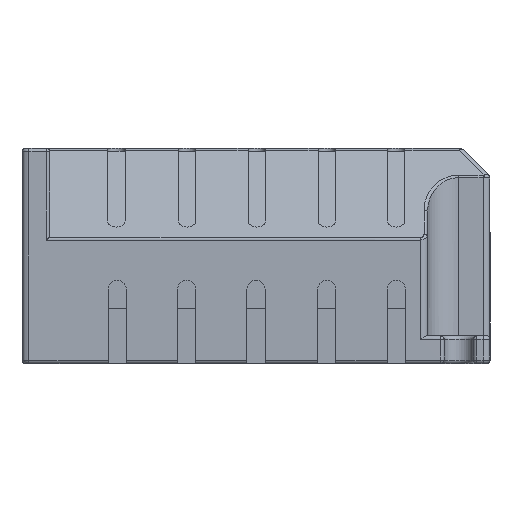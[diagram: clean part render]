
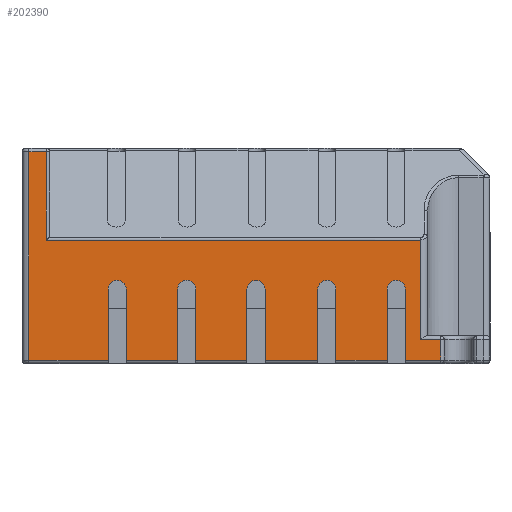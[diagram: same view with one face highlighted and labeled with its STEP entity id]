
A CAD part, left-side view. The second image highlights one B-rep face of the part: STEP entity #202390.
In plain terms, the highlighted planar face has unit normal (-1, 0, 0).
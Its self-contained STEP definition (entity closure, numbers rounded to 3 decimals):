
#198470=CARTESIAN_POINT('',(0.,7.1,0.5));
#198480=VERTEX_POINT('',#198470);
#198720=CARTESIAN_POINT('',(0.,14.8,0.5));
#198730=VERTEX_POINT('',#198720);
#198910=CARTESIAN_POINT('',(0.,12.2,0.5));
#198920=VERTEX_POINT('',#198910);
#198950=CARTESIAN_POINT('',(0.,7.1,0.5));
#198960=DIRECTION('',(0.,1.,0.));
#198970=VECTOR('',#198960,1.);
#198980=LINE('',#198950,#198970);
#198990=EDGE_CURVE('',#198480,#198920,#198980,.T.);
#199080=CARTESIAN_POINT('',(0.,66.4,0.5));
#199090=VERTEX_POINT('',#199080);
#199120=CARTESIAN_POINT('',(0.,55.,0.5));
#199130=DIRECTION('',(0.,1.,0.));
#199140=VECTOR('',#199130,1.);
#199150=LINE('',#199120,#199140);
#199160=CARTESIAN_POINT('',(0.,55.,0.5));
#199170=VERTEX_POINT('',#199160);
#199180=EDGE_CURVE('',#199170,#199090,#199150,.T.);
#199420=CARTESIAN_POINT('',(0.,52.4,0.5));
#199430=VERTEX_POINT('',#199420);
#199460=CARTESIAN_POINT('',(0.,45.,0.5));
#199470=DIRECTION('',(0.,1.,0.));
#199480=VECTOR('',#199470,1.);
#199490=LINE('',#199460,#199480);
#199500=CARTESIAN_POINT('',(0.,45.,0.5));
#199510=VERTEX_POINT('',#199500);
#199520=EDGE_CURVE('',#199510,#199430,#199490,.T.);
#199760=CARTESIAN_POINT('',(0.,42.4,0.5));
#199770=VERTEX_POINT('',#199760);
#199800=CARTESIAN_POINT('',(0.,35.,0.5));
#199810=DIRECTION('',(0.,1.,0.));
#199820=VECTOR('',#199810,1.);
#199830=LINE('',#199800,#199820);
#199840=CARTESIAN_POINT('',(0.,35.,0.5));
#199850=VERTEX_POINT('',#199840);
#199860=EDGE_CURVE('',#199850,#199770,#199830,.T.);
#200100=CARTESIAN_POINT('',(0.,32.4,0.5));
#200110=VERTEX_POINT('',#200100);
#200140=CARTESIAN_POINT('',(0.,24.8,0.5));
#200150=DIRECTION('',(0.,1.,0.));
#200160=VECTOR('',#200150,1.);
#200170=LINE('',#200140,#200160);
#200180=CARTESIAN_POINT('',(0.,24.8,0.5));
#200190=VERTEX_POINT('',#200180);
#200200=EDGE_CURVE('',#200190,#200110,#200170,.T.);
#200440=CARTESIAN_POINT('',(0.,22.2,0.5));
#200450=VERTEX_POINT('',#200440);
#200480=CARTESIAN_POINT('',(0.,14.8,0.5));
#200490=DIRECTION('',(0.,1.,0.));
#200500=VECTOR('',#200490,1.);
#200510=LINE('',#200480,#200500);
#200520=EDGE_CURVE('',#198730,#200450,#200510,.T.);
#200570=CARTESIAN_POINT('',(0.,9.,4.));
#200580=DIRECTION('',(-1.,0.,0.));
#200590=DIRECTION('',(0.,1.,0.));
#200600=AXIS2_PLACEMENT_3D('',#200570,#200580,#200590);
#200610=PLANE('',#200600);
#200620=CARTESIAN_POINT('',(0.,10.,3.51));
#200630=DIRECTION('',(0.,-1.,0.));
#200640=VECTOR('',#200630,1.);
#200650=LINE('',#200620,#200640);
#200660=CARTESIAN_POINT('',(0.,10.,3.51));
#200670=VERTEX_POINT('',#200660);
#200680=CARTESIAN_POINT('',(0.005,7.1,3.51));
#200690=VERTEX_POINT('',#200680);
#200700=EDGE_CURVE('',#200670,#200690,#200650,.T.);
#200710=ORIENTED_EDGE('',*,*,#200700,.F.);
#200720=CARTESIAN_POINT('',(0.,7.1,3.51));
#200730=DIRECTION('',(0.,0.,-1.));
#200740=VECTOR('',#200730,1.);
#200750=LINE('',#200720,#200740);
#200760=EDGE_CURVE('',#200690,#198480,#200750,.T.);
#200770=ORIENTED_EDGE('',*,*,#200760,.F.);
#200780=ORIENTED_EDGE('',*,*,#198990,.F.);
#200790=CARTESIAN_POINT('',(0.,12.2,0.5));
#200800=DIRECTION('',(0.,0.,1.));
#200810=VECTOR('',#200800,1.);
#200820=LINE('',#200790,#200810);
#200830=CARTESIAN_POINT('',(0.,12.2,10.7));
#200840=VERTEX_POINT('',#200830);
#200850=EDGE_CURVE('',#198920,#200840,#200820,.T.);
#200860=ORIENTED_EDGE('',*,*,#200850,.F.);
#200870=CARTESIAN_POINT('',(0.,13.5,10.7));
#200880=DIRECTION('',(1.,0.,-0.));
#200890=DIRECTION('',(0.,1.,0.));
#200900=AXIS2_PLACEMENT_3D('',#200870,#200880,#200890);
#200910=CIRCLE('',#200900,1.3);
#200920=CARTESIAN_POINT('',(0.,14.8,10.7));
#200930=VERTEX_POINT('',#200920);
#200940=EDGE_CURVE('',#200930,#200840,#200910,.T.);
#200950=ORIENTED_EDGE('',*,*,#200940,.T.);
#200960=CARTESIAN_POINT('',(0.,14.8,10.7));
#200970=DIRECTION('',(0.,0.,-1.));
#200980=VECTOR('',#200970,1.);
#200990=LINE('',#200960,#200980);
#201000=EDGE_CURVE('',#200930,#198730,#200990,.T.);
#201010=ORIENTED_EDGE('',*,*,#201000,.F.);
#201020=ORIENTED_EDGE('',*,*,#200520,.F.);
#201030=CARTESIAN_POINT('',(0.,22.2,0.5));
#201040=DIRECTION('',(0.,0.,1.));
#201050=VECTOR('',#201040,1.);
#201060=LINE('',#201030,#201050);
#201070=CARTESIAN_POINT('',(0.,22.2,10.7));
#201080=VERTEX_POINT('',#201070);
#201090=EDGE_CURVE('',#200450,#201080,#201060,.T.);
#201100=ORIENTED_EDGE('',*,*,#201090,.F.);
#201110=CARTESIAN_POINT('',(0.,23.5,10.7));
#201120=DIRECTION('',(1.,0.,-0.));
#201130=DIRECTION('',(0.,1.,0.));
#201140=AXIS2_PLACEMENT_3D('',#201110,#201120,#201130);
#201150=CIRCLE('',#201140,1.3);
#201160=CARTESIAN_POINT('',(0.,24.8,10.7));
#201170=VERTEX_POINT('',#201160);
#201180=EDGE_CURVE('',#201170,#201080,#201150,.T.);
#201190=ORIENTED_EDGE('',*,*,#201180,.T.);
#201200=CARTESIAN_POINT('',(0.,24.8,10.7));
#201210=DIRECTION('',(0.,0.,-1.));
#201220=VECTOR('',#201210,1.);
#201230=LINE('',#201200,#201220);
#201240=EDGE_CURVE('',#201170,#200190,#201230,.T.);
#201250=ORIENTED_EDGE('',*,*,#201240,.F.);
#201260=ORIENTED_EDGE('',*,*,#200200,.F.);
#201270=CARTESIAN_POINT('',(0.,32.4,0.5));
#201280=DIRECTION('',(0.,0.,1.));
#201290=VECTOR('',#201280,1.);
#201300=LINE('',#201270,#201290);
#201310=CARTESIAN_POINT('',(0.,32.4,10.7));
#201320=VERTEX_POINT('',#201310);
#201330=EDGE_CURVE('',#200110,#201320,#201300,.T.);
#201340=ORIENTED_EDGE('',*,*,#201330,.F.);
#201350=CARTESIAN_POINT('',(0.,33.7,10.7));
#201360=DIRECTION('',(1.,0.,-0.));
#201370=DIRECTION('',(0.,1.,0.));
#201380=AXIS2_PLACEMENT_3D('',#201350,#201360,#201370);
#201390=CIRCLE('',#201380,1.3);
#201400=CARTESIAN_POINT('',(0.,35.,10.7));
#201410=VERTEX_POINT('',#201400);
#201420=EDGE_CURVE('',#201410,#201320,#201390,.T.);
#201430=ORIENTED_EDGE('',*,*,#201420,.T.);
#201440=CARTESIAN_POINT('',(0.,35.,10.7));
#201450=DIRECTION('',(0.,0.,-1.));
#201460=VECTOR('',#201450,1.);
#201470=LINE('',#201440,#201460);
#201480=EDGE_CURVE('',#201410,#199850,#201470,.T.);
#201490=ORIENTED_EDGE('',*,*,#201480,.F.);
#201500=ORIENTED_EDGE('',*,*,#199860,.F.);
#201510=CARTESIAN_POINT('',(0.,42.4,0.5));
#201520=DIRECTION('',(0.,0.,1.));
#201530=VECTOR('',#201520,1.);
#201540=LINE('',#201510,#201530);
#201550=CARTESIAN_POINT('',(0.,42.4,10.7));
#201560=VERTEX_POINT('',#201550);
#201570=EDGE_CURVE('',#199770,#201560,#201540,.T.);
#201580=ORIENTED_EDGE('',*,*,#201570,.F.);
#201590=CARTESIAN_POINT('',(0.,43.7,10.7));
#201600=DIRECTION('',(1.,0.,-0.));
#201610=DIRECTION('',(0.,1.,0.));
#201620=AXIS2_PLACEMENT_3D('',#201590,#201600,#201610);
#201630=CIRCLE('',#201620,1.3);
#201640=CARTESIAN_POINT('',(0.,45.,10.7));
#201650=VERTEX_POINT('',#201640);
#201660=EDGE_CURVE('',#201650,#201560,#201630,.T.);
#201670=ORIENTED_EDGE('',*,*,#201660,.T.);
#201680=CARTESIAN_POINT('',(0.,45.,10.7));
#201690=DIRECTION('',(0.,0.,-1.));
#201700=VECTOR('',#201690,1.);
#201710=LINE('',#201680,#201700);
#201720=EDGE_CURVE('',#201650,#199510,#201710,.T.);
#201730=ORIENTED_EDGE('',*,*,#201720,.F.);
#201740=ORIENTED_EDGE('',*,*,#199520,.F.);
#201750=CARTESIAN_POINT('',(0.,52.4,0.5));
#201760=DIRECTION('',(0.,0.,1.));
#201770=VECTOR('',#201760,1.);
#201780=LINE('',#201750,#201770);
#201790=CARTESIAN_POINT('',(0.,52.4,10.7));
#201800=VERTEX_POINT('',#201790);
#201810=EDGE_CURVE('',#199430,#201800,#201780,.T.);
#201820=ORIENTED_EDGE('',*,*,#201810,.F.);
#201830=CARTESIAN_POINT('',(0.,53.7,10.7));
#201840=DIRECTION('',(1.,0.,-0.));
#201850=DIRECTION('',(0.,1.,0.));
#201860=AXIS2_PLACEMENT_3D('',#201830,#201840,#201850);
#201870=CIRCLE('',#201860,1.3);
#201880=CARTESIAN_POINT('',(0.,55.,10.7));
#201890=VERTEX_POINT('',#201880);
#201900=EDGE_CURVE('',#201890,#201800,#201870,.T.);
#201910=ORIENTED_EDGE('',*,*,#201900,.T.);
#201920=CARTESIAN_POINT('',(0.,55.,10.7));
#201930=DIRECTION('',(0.,0.,-1.));
#201940=VECTOR('',#201930,1.);
#201950=LINE('',#201920,#201940);
#201960=EDGE_CURVE('',#201890,#199170,#201950,.T.);
#201970=ORIENTED_EDGE('',*,*,#201960,.F.);
#201980=ORIENTED_EDGE('',*,*,#199180,.F.);
#201990=CARTESIAN_POINT('',(0.,66.4,0.5));
#202000=DIRECTION('',(0.,0.,1.));
#202010=VECTOR('',#202000,1.);
#202020=LINE('',#201990,#202010);
#202030=CARTESIAN_POINT('',(0.,66.4,30.5));
#202040=VERTEX_POINT('',#202030);
#202050=EDGE_CURVE('',#199090,#202040,#202020,.T.);
#202060=ORIENTED_EDGE('',*,*,#202050,.F.);
#202070=CARTESIAN_POINT('',(0.,66.4,30.5));
#202080=DIRECTION('',(0.,-1.,0.));
#202090=VECTOR('',#202080,1.);
#202100=LINE('',#202070,#202090);
#202110=CARTESIAN_POINT('',(0.,63.9,30.5));
#202120=VERTEX_POINT('',#202110);
#202130=EDGE_CURVE('',#202040,#202120,#202100,.T.);
#202140=ORIENTED_EDGE('',*,*,#202130,.F.);
#202150=CARTESIAN_POINT('',(0.,63.9,30.5));
#202160=DIRECTION('',(0.,0.,-1.));
#202170=VECTOR('',#202160,1.);
#202180=LINE('',#202150,#202170);
#202190=CARTESIAN_POINT('',(0.,63.9,17.793));
#202200=VERTEX_POINT('',#202190);
#202210=EDGE_CURVE('',#202120,#202200,#202180,.T.);
#202220=ORIENTED_EDGE('',*,*,#202210,.F.);
#202230=CARTESIAN_POINT('',(0.,63.9,17.793));
#202240=DIRECTION('',(0.,-1.,0.));
#202250=VECTOR('',#202240,1.);
#202260=LINE('',#202230,#202250);
#202270=CARTESIAN_POINT('',(0.,10.,
17.793));
#202280=VERTEX_POINT('',#202270);
#202290=EDGE_CURVE('',#202200,#202280,#202260,.T.);
#202300=ORIENTED_EDGE('',*,*,#202290,.F.);
#202310=CARTESIAN_POINT('',(0.,10.,17.793));
#202320=DIRECTION('',(0.,0.,-1.));
#202330=VECTOR('',#202320,1.);
#202340=LINE('',#202310,#202330);
#202350=EDGE_CURVE('',#202280,#200670,#202340,.T.);
#202360=ORIENTED_EDGE('',*,*,#202350,.F.);
#202370=EDGE_LOOP('',(#202360,#202300,#202220,#202140,#202060,#201980,
#201970,#201910,#201820,#201740,#201730,#201670,#201580,#201500,#201490,
#201430,#201340,#201260,#201250,#201190,#201100,#201020,#201010,#200950,
#200860,#200780,#200770,#200710));
#202380=FACE_OUTER_BOUND('',#202370,.T.);
#202390=ADVANCED_FACE('',(#202380),#200610,.T.);
